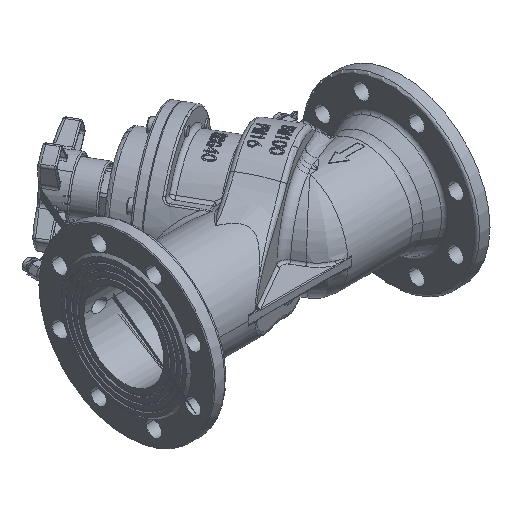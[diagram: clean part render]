
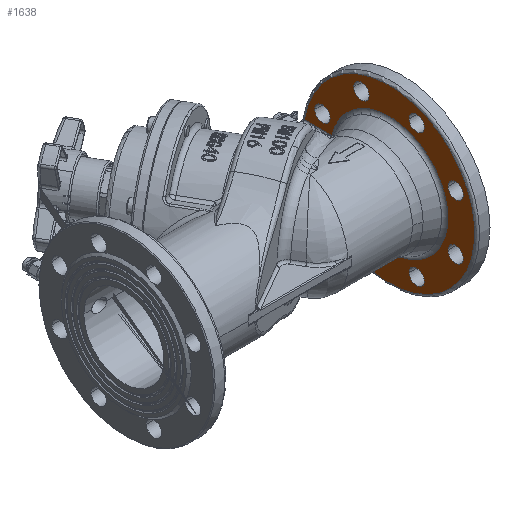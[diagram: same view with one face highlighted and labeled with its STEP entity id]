
A CAD part, isometric view. The second image highlights one B-rep face of the part: STEP entity #1638.
In plain terms, the highlighted planar face has unit normal (-1, 0, 0).
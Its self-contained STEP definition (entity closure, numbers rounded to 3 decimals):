
#1638=ADVANCED_FACE('',(#21168,#21170,#21172,#21174,#21176,#21178,#21180,#21182,
#21184),#21186,.F.);
#21168=FACE_BOUND('',#21169,.T.);
#21169=EDGE_LOOP('',(#94766,#94767,#94768,#94769));
#21170=FACE_BOUND('',#21171,.T.);
#21171=EDGE_LOOP('',(#94770,#94771));
#21172=FACE_BOUND('',#21173,.T.);
#21173=EDGE_LOOP('',(#94772,#94773));
#21174=FACE_BOUND('',#21175,.T.);
#21175=EDGE_LOOP('',(#94774,#94775));
#21176=FACE_BOUND('',#21177,.T.);
#21177=EDGE_LOOP('',(#94776,#94777));
#21178=FACE_BOUND('',#21179,.T.);
#21179=EDGE_LOOP('',(#94778,#94779));
#21180=FACE_BOUND('',#21181,.T.);
#21181=EDGE_LOOP('',(#94780,#94781));
#21182=FACE_BOUND('',#21183,.T.);
#21183=EDGE_LOOP('',(#94782,#94783));
#21184=FACE_BOUND('',#21185,.T.);
#21185=EDGE_LOOP('',(#94784,#94785));
#21186=PLANE('',#21187);
#21187=AXIS2_PLACEMENT_3D('',#21188,#21189,#21190);
#21188=CARTESIAN_POINT('',(359.53,118.25,8.606));
#21189=DIRECTION('',(1.,0.,0.));
#21190=DIRECTION('',(0.,1.,0.));
#94766=ORIENTED_EDGE('',*,*,#103103,.F.);
#94767=ORIENTED_EDGE('',*,*,#103104,.T.);
#94768=ORIENTED_EDGE('',*,*,#103105,.F.);
#94769=ORIENTED_EDGE('',*,*,#103106,.F.);
#94770=ORIENTED_EDGE('',*,*,#103016,.F.);
#94771=ORIENTED_EDGE('',*,*,#103097,.F.);
#94772=ORIENTED_EDGE('',*,*,#103010,.F.);
#94773=ORIENTED_EDGE('',*,*,#103099,.F.);
#94774=ORIENTED_EDGE('',*,*,#103101,.F.);
#94775=ORIENTED_EDGE('',*,*,#103029,.F.);
#94776=ORIENTED_EDGE('',*,*,#103095,.F.);
#94777=ORIENTED_EDGE('',*,*,#103023,.F.);
#94778=ORIENTED_EDGE('',*,*,#103019,.F.);
#94779=ORIENTED_EDGE('',*,*,#103096,.F.);
#94780=ORIENTED_EDGE('',*,*,#103102,.F.);
#94781=ORIENTED_EDGE('',*,*,#103026,.F.);
#94782=ORIENTED_EDGE('',*,*,#103100,.F.);
#94783=ORIENTED_EDGE('',*,*,#103032,.F.);
#94784=ORIENTED_EDGE('',*,*,#103013,.F.);
#94785=ORIENTED_EDGE('',*,*,#103098,.F.);
#103010=EDGE_CURVE('',#107539,#107540,#107541,.T.);
#103013=EDGE_CURVE('',#107544,#107545,#107546,.T.);
#103016=EDGE_CURVE('',#107549,#107550,#107551,.T.);
#103019=EDGE_CURVE('',#107554,#107555,#107556,.T.);
#103023=EDGE_CURVE('',#107559,#107561,#107562,.T.);
#103026=EDGE_CURVE('',#107564,#107566,#107567,.T.);
#103029=EDGE_CURVE('',#107569,#107571,#107572,.T.);
#103032=EDGE_CURVE('',#107574,#107576,#107577,.T.);
#103095=EDGE_CURVE('',#107561,#107559,#107680,.T.);
#103096=EDGE_CURVE('',#107555,#107554,#107681,.T.);
#103097=EDGE_CURVE('',#107550,#107549,#107682,.T.);
#103098=EDGE_CURVE('',#107545,#107544,#107683,.T.);
#103099=EDGE_CURVE('',#107540,#107539,#107684,.T.);
#103100=EDGE_CURVE('',#107576,#107574,#107685,.T.);
#103101=EDGE_CURVE('',#107571,#107569,#107686,.T.);
#103102=EDGE_CURVE('',#107566,#107564,#107687,.T.);
#103103=EDGE_CURVE('',#107688,#107689,#107690,.T.);
#103104=EDGE_CURVE('',#107688,#107691,#107692,.T.);
#103105=EDGE_CURVE('',#107693,#107691,#107694,.T.);
#103106=EDGE_CURVE('',#107689,#107693,#107695,.T.);
#107539=VERTEX_POINT('',#120136);
#107540=VERTEX_POINT('',#120137);
#107541=CIRCLE('',#120138,9.5);
#107544=VERTEX_POINT('',#120148);
#107545=VERTEX_POINT('',#120149);
#107546=CIRCLE('',#120150,9.5);
#107549=VERTEX_POINT('',#120160);
#107550=VERTEX_POINT('',#120161);
#107551=CIRCLE('',#120162,9.5);
#107554=VERTEX_POINT('',#120172);
#107555=VERTEX_POINT('',#120173);
#107556=CIRCLE('',#120174,9.5);
#107559=VERTEX_POINT('',#120184);
#107561=VERTEX_POINT('',#120188);
#107562=CIRCLE('',#120189,9.5);
#107564=VERTEX_POINT('',#120196);
#107566=VERTEX_POINT('',#120200);
#107567=CIRCLE('',#120201,9.5);
#107569=VERTEX_POINT('',#120208);
#107571=VERTEX_POINT('',#120212);
#107572=CIRCLE('',#120213,9.5);
#107574=VERTEX_POINT('',#120220);
#107576=VERTEX_POINT('',#120224);
#107577=CIRCLE('',#120225,9.5);
#107680=CIRCLE('',#121619,9.5);
#107681=CIRCLE('',#121623,9.5);
#107682=CIRCLE('',#121627,9.5);
#107683=CIRCLE('',#121631,9.5);
#107684=CIRCLE('',#121635,9.5);
#107685=CIRCLE('',#121639,9.5);
#107686=CIRCLE('',#121643,9.5);
#107687=CIRCLE('',#121647,9.5);
#107688=VERTEX_POINT('',#121651);
#107689=VERTEX_POINT('',#121652);
#107690=LINE('',#121653,#121654);
#107691=VERTEX_POINT('',#121656);
#107692=CIRCLE('',#121657,73.385);
#107693=VERTEX_POINT('',#121661);
#107694=LINE('',#121662,#121663);
#107695=CIRCLE('',#121665,107.);
#120136=CARTESIAN_POINT('',(359.53,210.899,43.048));
#120137=CARTESIAN_POINT('',(359.53,191.899,43.048));
#120138=AXIS2_PLACEMENT_3D('',#120139,#120140,#120141);
#120139=CARTESIAN_POINT('',(359.53,201.399,43.048));
#120140=DIRECTION('',(-1.,0.,0.));
#120141=DIRECTION('',(0.,1.,0.));
#120148=CARTESIAN_POINT('',(359.53,162.192,91.755));
#120149=CARTESIAN_POINT('',(359.53,143.192,91.755));
#120150=AXIS2_PLACEMENT_3D('',#120151,#120152,#120153);
#120151=CARTESIAN_POINT('',(359.53,152.692,91.755));
#120152=DIRECTION('',(-1.,0.,0.));
#120153=DIRECTION('',(0.,1.,0.));
#120160=CARTESIAN_POINT('',(359.53,93.309,91.755));
#120161=CARTESIAN_POINT('',(359.53,74.309,91.755));
#120162=AXIS2_PLACEMENT_3D('',#120163,#120164,#120165);
#120163=CARTESIAN_POINT('',(359.53,83.809,91.755));
#120164=DIRECTION('',(-1.,0.,0.));
#120165=DIRECTION('',(0.,1.,0.));
#120172=CARTESIAN_POINT('',(359.53,44.601,43.048));
#120173=CARTESIAN_POINT('',(359.53,25.601,43.048));
#120174=AXIS2_PLACEMENT_3D('',#120175,#120176,#120177);
#120175=CARTESIAN_POINT('',(359.53,35.101,43.048));
#120176=DIRECTION('',(-1.,0.,0.));
#120177=DIRECTION('',(0.,1.,0.));
#120184=CARTESIAN_POINT('',(359.53,25.601,-25.835));
#120188=CARTESIAN_POINT('',(359.53,44.601,-25.835));
#120189=AXIS2_PLACEMENT_3D('',#120190,#120191,#120192);
#120190=CARTESIAN_POINT('',(359.53,35.101,-25.835));
#120191=DIRECTION('',(-1.,0.,0.));
#120192=DIRECTION('',(0.,-1.,0.));
#120196=CARTESIAN_POINT('',(359.53,74.309,-74.543));
#120200=CARTESIAN_POINT('',(359.53,93.309,-74.543));
#120201=AXIS2_PLACEMENT_3D('',#120202,#120203,#120204);
#120202=CARTESIAN_POINT('',(359.53,83.809,-74.543));
#120203=DIRECTION('',(-1.,0.,0.));
#120204=DIRECTION('',(0.,-1.,0.));
#120208=CARTESIAN_POINT('',(359.53,143.192,-74.543));
#120212=CARTESIAN_POINT('',(359.53,162.192,-74.543));
#120213=AXIS2_PLACEMENT_3D('',#120214,#120215,#120216);
#120214=CARTESIAN_POINT('',(359.53,152.692,-74.543));
#120215=DIRECTION('',(-1.,0.,0.));
#120216=DIRECTION('',(0.,-1.,0.));
#120220=CARTESIAN_POINT('',(359.53,191.899,-25.835));
#120224=CARTESIAN_POINT('',(359.53,210.899,-25.835));
#120225=AXIS2_PLACEMENT_3D('',#120226,#120227,#120228);
#120226=CARTESIAN_POINT('',(359.53,201.399,-25.835));
#120227=DIRECTION('',(-1.,0.,0.));
#120228=DIRECTION('',(0.,-1.,0.));
#121619=AXIS2_PLACEMENT_3D('',#121620,#121621,#121622);
#121620=CARTESIAN_POINT('',(359.53,35.101,-25.835));
#121621=DIRECTION('',(-1.,0.,0.));
#121622=DIRECTION('',(0.,1.,0.));
#121623=AXIS2_PLACEMENT_3D('',#121624,#121625,#121626);
#121624=CARTESIAN_POINT('',(359.53,35.101,43.048));
#121625=DIRECTION('',(-1.,0.,0.));
#121626=DIRECTION('',(0.,-1.,0.));
#121627=AXIS2_PLACEMENT_3D('',#121628,#121629,#121630);
#121628=CARTESIAN_POINT('',(359.53,83.809,91.755));
#121629=DIRECTION('',(-1.,0.,0.));
#121630=DIRECTION('',(0.,-1.,0.));
#121631=AXIS2_PLACEMENT_3D('',#121632,#121633,#121634);
#121632=CARTESIAN_POINT('',(359.53,152.692,91.755));
#121633=DIRECTION('',(-1.,0.,0.));
#121634=DIRECTION('',(0.,-1.,0.));
#121635=AXIS2_PLACEMENT_3D('',#121636,#121637,#121638);
#121636=CARTESIAN_POINT('',(359.53,201.399,43.048));
#121637=DIRECTION('',(-1.,0.,0.));
#121638=DIRECTION('',(0.,-1.,0.));
#121639=AXIS2_PLACEMENT_3D('',#121640,#121641,#121642);
#121640=CARTESIAN_POINT('',(359.53,201.399,-25.835));
#121641=DIRECTION('',(-1.,0.,0.));
#121642=DIRECTION('',(0.,1.,0.));
#121643=AXIS2_PLACEMENT_3D('',#121644,#121645,#121646);
#121644=CARTESIAN_POINT('',(359.53,152.692,-74.543));
#121645=DIRECTION('',(-1.,0.,0.));
#121646=DIRECTION('',(0.,1.,0.));
#121647=AXIS2_PLACEMENT_3D('',#121648,#121649,#121650);
#121648=CARTESIAN_POINT('',(359.53,83.809,-74.543));
#121649=DIRECTION('',(-1.,0.,0.));
#121650=DIRECTION('',(0.,1.,0.));
#121651=CARTESIAN_POINT('',(359.53,189.667,25.488));
#121652=CARTESIAN_POINT('',(359.53,223.91,25.488));
#121653=CARTESIAN_POINT('',(359.53,189.667,25.488));
#121654=VECTOR('',#121655,1.);
#121655=DIRECTION('',(0.,1.,0.));
#121656=CARTESIAN_POINT('',(359.53,189.667,-8.276));
#121657=AXIS2_PLACEMENT_3D('',#121658,#121659,#121660);
#121658=CARTESIAN_POINT('',(359.53,118.25,8.606));
#121659=DIRECTION('',(1.,0.,0.));
#121660=DIRECTION('',(0.,0.973,0.23));
#121661=CARTESIAN_POINT('',(359.53,223.91,-8.276));
#121662=CARTESIAN_POINT('',(359.53,223.91,-8.276));
#121663=VECTOR('',#121664,1.);
#121664=DIRECTION('',(0.,-1.,0.));
#121665=AXIS2_PLACEMENT_3D('',#121666,#121667,#121668);
#121666=CARTESIAN_POINT('',(359.53,118.25,8.606));
#121667=DIRECTION('',(1.,0.,0.));
#121668=DIRECTION('',(0.,0.987,0.158));
